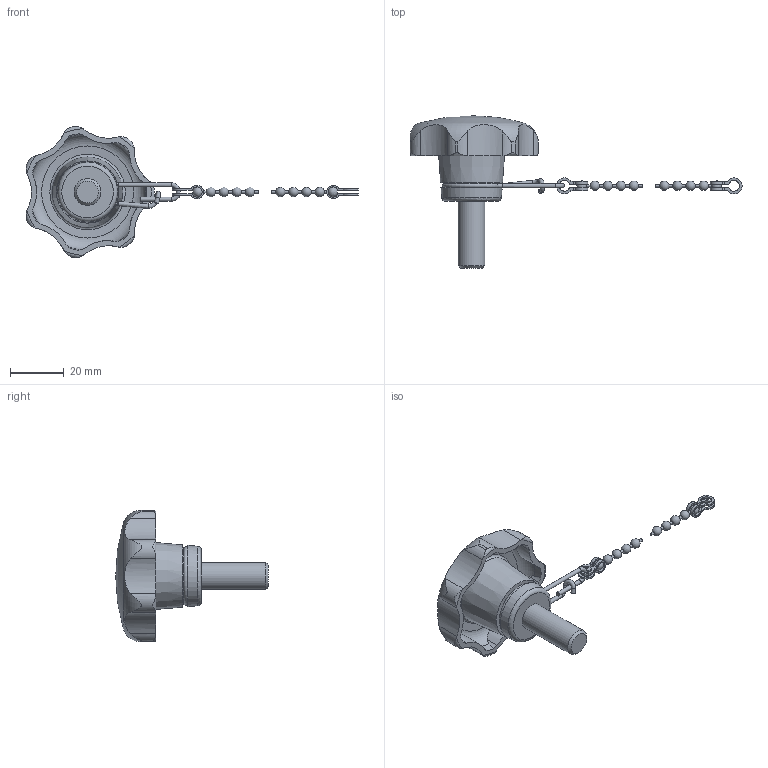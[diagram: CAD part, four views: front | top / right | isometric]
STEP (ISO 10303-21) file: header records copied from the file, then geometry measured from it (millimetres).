
FILE_DESCRIPTION( ( 'STEP AP203' ), '1' );
FILE_NAME( 'C:/Temp/Ganter_Step_05_03_2020/data/2_2/gn_6336_13/gn_6336_13_2/Star knob GN 6336.13-50-M10-25-K.stp', '2020-03-05T12:12:28', ( 'License CC BY-ND 4.0' ), ( 'CADENAS' ), ' ', 'PARTsolutions', ' ' );
FILE_SCHEMA( ( 'CONFIG_CONTROL_DESIGN' ) );
Length unit declared in the file: millimetre
Products named in the file (3): Star knob GN 6336.13-50-M10-25-K; _Star knob GN 6336.13-50-M10-25-K 6; _Star knob GN 111.5-200-14 k2
Assembly tree (2 placements, depth 2):
  Star knob GN 6336.13-50-M10-25-K
    _Star knob GN 6336.13-50-M10-25-K 6
    _Star knob GN 111.5-200-14 k2
Bounding box: 124.03 x 57 x 48.99 mm (x, y, z)
Volume: 24859.3 mm3; surface area: 9942 mm2
Topology: 2 solids, 2 shells, 163 faces, 466 edges, 300 vertices
Faces by surface type: cylinder 95, plane 28, torus 18, sphere 11, cone 11
Full cylindrical faces by diameter (mm): 0.9 x10, 1.6 x6, 10 x1, 18.5 x1
Entity records: 5930 total; most frequent: CARTESIAN_POINT 1831, DIRECTION 852, ORIENTED_EDGE 802, EDGE_CURVE 401, AXIS2_PLACEMENT_3D 366, VERTEX_POINT 287, EDGE_LOOP 213, CIRCLE 200
